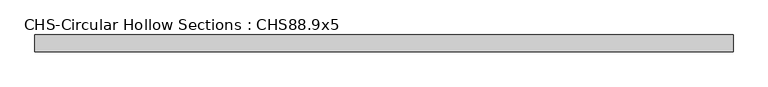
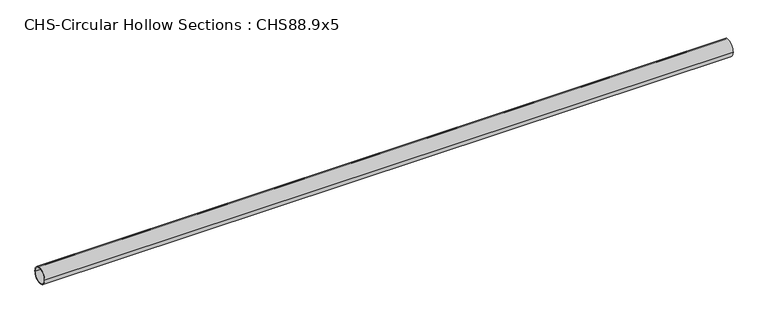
"""IFC4 building model written with IfcOpenShell, lengths in millimetres: beam geometry, CHS-Circular Hollow Sections : CHS88.9x5."""

import ifcopenshell
import ifcopenshell.guid

model = None  # the IFC model being written
_history = None  # IfcOwnerHistory: only IFC2X3 demands one
_inside = {}  # id of a spatial element -> (the spatial element, [elements in it])
_under = {}  # id of a project, library or spatial element -> (it, [spatial elements below it])
_declared = {}  # id of a project -> (the project, [libraries it declares])
_typed = {}  # id of a type object -> (the type object, [elements of that type])
_made_of = {}  # id of a material, layer set ... -> (it, [elements and type objects made of it])


def new_model(schema):
    """Start an empty IFC model of exactly this schema.

    Asked for "IFC4X3", IfcOpenShell would pick the latest addendum, in which some entities
    have other attributes; the version numbers below select the first issue.
    IFC2X3 requires an IfcOwnerHistory on every rooted entity: one is made here for all.
    """
    global model, _history
    if schema == "IFC4X3":
        model = ifcopenshell.file(schema_version=(4, 3, 0, 0))
    else:
        model = ifcopenshell.file(schema=schema)
    _inside.clear()
    _under.clear()
    _declared.clear()
    _typed.clear()
    _made_of.clear()
    _history = None
    if model.schema == "IFC2X3":
        org = make("IfcOrganization", Name="unknown")
        user = make(
            "IfcPersonAndOrganization",
            ThePerson=make("IfcPerson", FamilyName="unknown"),
            TheOrganization=org,
        )
        app = make(
            "IfcApplication",
            ApplicationDeveloper=org,
            Version="unknown",
            ApplicationFullName="unknown",
            ApplicationIdentifier="unknown",
        )
        _history = make(
            "IfcOwnerHistory",
            OwningUser=user,
            OwningApplication=app,
            ChangeAction="ADDED",
            CreationDate=0,
        )
    return model


def make(cls, **values):
    """One entity of the class cls with the attributes given. An attribute that is None is left unset."""
    return model.create_entity(
        cls, **{name: value for name, value in values.items() if value is not None}
    )


def rooted(cls, **values):
    """An entity with a GlobalId (a new one), such as an element, a storey or a relation."""
    return make(cls, GlobalId=ifcopenshell.guid.new(), OwnerHistory=_history, **values)


def si_unit(unit_type, name, prefix=None):
    """IfcSIUnit, for example si_unit("LENGTHUNIT", "METRE", prefix="MILLI")."""
    return make("IfcSIUnit", UnitType=unit_type, Prefix=prefix, Name=name)


def assignment(units):
    """IfcUnitAssignment: the units of a project."""
    return None if units is None else make("IfcUnitAssignment", Units=units)


def point(xyz):
    """IfcCartesianPoint."""
    return None if xyz is None else make("IfcCartesianPoint", Coordinates=xyz)


def direction(xyz):
    """IfcDirection."""
    return None if xyz is None else make("IfcDirection", DirectionRatios=xyz)


def frame(location, z_axis=None, x_axis=None):
    """IfcAxis2Placement3D, a coordinate frame: its origin and axes. An axis left out is left unset."""
    return make(
        "IfcAxis2Placement3D",
        Location=point(location),
        Axis=direction(z_axis),
        RefDirection=direction(x_axis),
    )


def frame_2d(location, x_axis=None):
    """IfcAxis2Placement2D, a coordinate frame in the plane: its origin and x axis."""
    return make(
        "IfcAxis2Placement2D", Location=point(location), RefDirection=direction(x_axis)
    )


def origin():
    """The frame at (0, 0, 0) with its axes left unset."""
    return frame((0.0, 0.0, 0.0))


def origin_2d():
    """The frame at (0, 0) in the plane with its x axis left unset."""
    return frame_2d((0.0, 0.0))


def place(relative_to, where):
    """IfcLocalPlacement: puts the frame where relative to a parent placement (None: the world)."""
    return make(
        "IfcLocalPlacement", PlacementRelTo=relative_to, RelativePlacement=where
    )


def context(
    kind, dimensions, precision=None, world=None, true_north=None, identifier=None
):
    """IfcGeometricRepresentationContext, for example the 3D "Model" context."""
    return make(
        "IfcGeometricRepresentationContext",
        ContextIdentifier=identifier,
        ContextType=kind,
        CoordinateSpaceDimension=dimensions,
        Precision=precision,
        WorldCoordinateSystem=world,
        TrueNorth=true_north,
    )


def project(units=None, contexts=None):
    """IfcProject with its units and contexts."""
    return rooted(
        "IfcProject",
        Name="project",
        RepresentationContexts=contexts,
        UnitsInContext=assignment(units),
    )


def spatial(cls, under=None, at=None, **own):
    """A site, building, storey or space (cls), placed at a placement, below another one or the project."""
    s = rooted(cls, ObjectPlacement=at, **own)
    if under is not None:
        _under.setdefault(under.id(), (under, []))[1].append(s)
    return s


def circle_curve(where, radius):
    """IfcCircle in the frame where."""
    return make("IfcCircle", Position=where, Radius=radius)


def trimmed(basis, trim1, trim2, sense, master):
    """IfcTrimmedCurve: the piece of a basis curve between two trims."""
    return make(
        "IfcTrimmedCurve",
        BasisCurve=basis,
        Trim1=trim1,
        Trim2=trim2,
        SenseAgreement=sense,
        MasterRepresentation=master,
    )


def segment(curve, same_sense, transition):
    """IfcCompositeCurveSegment."""
    return make(
        "IfcCompositeCurveSegment",
        Transition=transition,
        SameSense=same_sense,
        ParentCurve=curve,
    )


def composite_curve(segments, self_intersect=None):
    """IfcCompositeCurve: segments joined end to end."""
    return make("IfcCompositeCurve", Segments=segments, SelfIntersect=self_intersect)


def outline(outer, holes=None, kind="AREA"):
    """IfcArbitraryClosedProfileDef: a profile drawn as a closed curve; with holes, ...WithVoids."""
    if holes is None:
        return make("IfcArbitraryClosedProfileDef", ProfileType=kind, OuterCurve=outer)
    return make(
        "IfcArbitraryProfileDefWithVoids",
        ProfileType=kind,
        OuterCurve=outer,
        InnerCurves=holes,
    )


def extrude(swept, where, along, depth):
    """IfcExtrudedAreaSolid: the profile swept, set in the frame where, extruded along a direction by depth."""
    return make(
        "IfcExtrudedAreaSolid",
        SweptArea=swept,
        Position=where,
        ExtrudedDirection=direction(along),
        Depth=depth,
    )


def shape(context_of_items, identifier, shape_type, items):
    """IfcShapeRepresentation: the items that make up one representation, for example the "Body"."""
    return make(
        "IfcShapeRepresentation",
        ContextOfItems=context_of_items,
        RepresentationIdentifier=identifier,
        RepresentationType=shape_type,
        Items=items,
    )


def source(mapping_origin, context_of_items, identifier, shape_type, items):
    """IfcRepresentationMap: a shape defined once, which mapped items show again and again."""
    return make(
        "IfcRepresentationMap",
        MappingOrigin=mapping_origin,
        MappedRepresentation=shape(context_of_items, identifier, shape_type, items),
    )


def transform(
    local_origin,
    x_axis=None,
    y_axis=None,
    z_axis=None,
    scale=None,
    scale2=None,
    scale3=None,
    uniform=True,
):
    """IfcCartesianTransformationOperator3D, or its non-uniform kind. x_axis, y_axis, z_axis: its Axis1, 2, 3."""
    if uniform:
        return make(
            "IfcCartesianTransformationOperator3D",
            Axis1=direction(x_axis),
            Axis2=direction(y_axis),
            LocalOrigin=point(local_origin),
            Scale=scale,
            Axis3=direction(z_axis),
        )
    return make(
        "IfcCartesianTransformationOperator3DnonUniform",
        Axis1=direction(x_axis),
        Axis2=direction(y_axis),
        LocalOrigin=point(local_origin),
        Scale=scale,
        Axis3=direction(z_axis),
        Scale2=scale2,
        Scale3=scale3,
    )


def mapped(mapping_source, mapping_target):
    """IfcMappedItem: shows the shape of a source again, moved by a transform."""
    return make(
        "IfcMappedItem", MappingSource=mapping_source, MappingTarget=mapping_target
    )


def made_of(thing, what):
    """Note that an element or type object is made of a material, layer set ...; save() writes the relation."""
    if what is not None:
        _made_of.setdefault(what.id(), (what, []))[1].append(thing)
    return thing


def element(
    cls,
    number,
    at=None,
    inside=None,
    cuts=None,
    type_object=None,
    material=None,
    context=None,
    identifier="Body",
    shape_type=None,
    held_by="IfcProductDefinitionShape",
    body=None,
    shapes=None,
    **own,
):
    """One element of the class cls, such as IfcWall. Its Tag is "e" and its number.

    at: its placement. inside: the storey or other place that contains it. cuts: it is an
    opening in that element (IfcRelVoidsElement). A single representation is given by context,
    identifier, shape_type and body (its items); several are given by shapes. held_by: the class
    of the entity that holds the representations. save() writes the other relations.
    """
    e = rooted(cls, Tag="e%d" % number, ObjectPlacement=at, **own)
    if body is not None:
        shapes = [shape(context, identifier, shape_type, body)]
    if shapes is not None:
        e.Representation = make(held_by, Representations=shapes)
    if inside is not None:
        _inside.setdefault(inside.id(), (inside, []))[1].append(e)
    if cuts is not None:
        rooted(
            "IfcRelVoidsElement", RelatingBuildingElement=cuts, RelatedOpeningElement=e
        )
    if type_object is not None:
        _typed.setdefault(type_object.id(), (type_object, []))[1].append(e)
    return made_of(e, material)


def aggregate(whole, parts):
    """IfcRelAggregates: a whole, such as a stair, and the parts it consists of."""
    return rooted("IfcRelAggregates", RelatingObject=whole, RelatedObjects=parts)


def save(model, path):
    """Write the relations noted so far, then the file.

    IfcRelAggregates (storeys below a building ...), IfcRelContainedInSpatialStructure (elements
    in a storey), IfcRelDefinesByType, IfcRelAssociatesMaterial and IfcRelDeclares: one each for
    every whole, place, type object, material and project.
    """
    for whole, parts in _under.values():
        aggregate(whole, parts)
    for where, things in _inside.values():
        rooted(
            "IfcRelContainedInSpatialStructure",
            RelatedElements=things,
            RelatingStructure=where,
        )
    for kind, things in _typed.values():
        rooted("IfcRelDefinesByType", RelatedObjects=things, RelatingType=kind)
    for what, things in _made_of.values():
        rooted("IfcRelAssociatesMaterial", RelatedObjects=things, RelatingMaterial=what)
    for by, libraries in _declared.values():
        rooted("IfcRelDeclares", RelatingContext=by, RelatedDefinitions=libraries)
    model.write(path)


def chs_circular_hollow_sections_chs88_9x5_e4ac247b(model_context):
    return source(origin(), model_context, "Body", "SweptSolid", [
        extrude(outline(composite_curve([segment(trimmed(circle_curve(origin_2d(), 44.45), [point((-44.45, 0.0))], [point((44.45, 0.0))], False, "CARTESIAN"), True, "CONTINUOUS"), segment(trimmed(circle_curve(origin_2d(), 44.45), [point((44.45, 0.0))], [point((-44.45, 0.0))], False, "CARTESIAN"), True, "CONTINUOUS")], self_intersect=False), holes=[composite_curve([segment(trimmed(circle_curve(origin_2d(), 39.45), [point((39.45, 0.0))], [point((-39.45, 0.0))], True, "CARTESIAN"), True, "CONTINUOUS"), segment(trimmed(circle_curve(origin_2d(), 39.45), [point((-39.45, 0.0))], [point((39.45, 0.0))], True, "CARTESIAN"), True, "CONTINUOUS")], self_intersect=False)]), frame((-1907.5, 0.0, 0.0), z_axis=(1.0, 0.0, 0.0), x_axis=(0.0, 1.0, 0.0)), (0.0, 0.0, 1.0), 3709.0),
    ])


if __name__ == "__main__":
    model = new_model("IFC4")
    model_context = context("Model", 3, world=origin())
    ifc_project = project(units=[si_unit("LENGTHUNIT", "METRE", prefix="MILLI")], contexts=[model_context])
    site = spatial("IfcSite", under=ifc_project)
    building = spatial("IfcBuilding", under=site)
    placement = place(None, origin())
    chs_circular_hollow_sections_chs88_9x5_shape = chs_circular_hollow_sections_chs88_9x5_e4ac247b(model_context)
    element("IfcBeam", 1, ObjectType="CHS-Circular Hollow Sections : CHS88.9x5", at=placement, inside=building, context=model_context, shape_type="MappedRepresentation", body=[
        mapped(chs_circular_hollow_sections_chs88_9x5_shape, transform((0.0, 0.0, 0.0), x_axis=(1.0, 0.0, 0.0), y_axis=(0.0, 1.0, 0.0), z_axis=(0.0, 0.0, 1.0))),
    ])
    save(model, "model.ifc")
